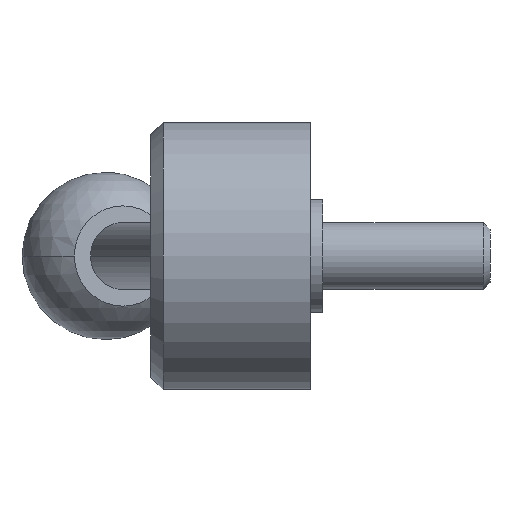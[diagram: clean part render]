
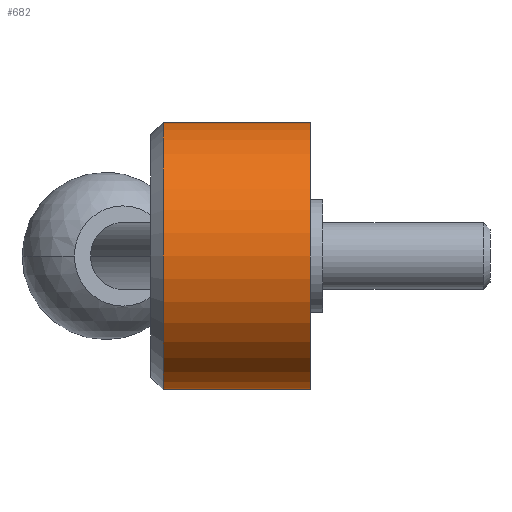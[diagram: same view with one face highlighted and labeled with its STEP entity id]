
A CAD part, left-side view. The second image highlights one B-rep face of the part: STEP entity #682.
In plain terms, the highlighted cylindrical face has radius 16 mm (diameter 32 mm), a partial arc.
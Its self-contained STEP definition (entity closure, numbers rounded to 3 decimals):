
#68 = VECTOR ( 'NONE', #378, 1000. ) ;
#84 = CARTESIAN_POINT ( 'NONE',  ( 0., 17.6, 0. ) ) ;
#109 = CIRCLE ( 'NONE', #609, 16. ) ;
#222 = CARTESIAN_POINT ( 'NONE',  ( 0., 17.6, 16. ) ) ;
#243 = VERTEX_POINT ( 'NONE', #641 ) ;
#245 = AXIS2_PLACEMENT_3D ( 'NONE', #888, #282, #495 ) ;
#249 = EDGE_CURVE ( 'NONE', #768, #789, #109, .T. ) ;
#261 = AXIS2_PLACEMENT_3D ( 'NONE', #290, #781, #494 ) ;
#282 = DIRECTION ( 'NONE',  ( 0., -1., 0. ) ) ;
#290 = CARTESIAN_POINT ( 'NONE',  ( 0., 0., 0. ) ) ;
#292 = ORIENTED_EDGE ( 'NONE', *, *, #249, .T. ) ;
#297 = DIRECTION ( 'NONE',  ( 0., 0., 1. ) ) ;
#342 = EDGE_CURVE ( 'NONE', #789, #434, #701, .T. ) ;
#348 = ORIENTED_EDGE ( 'NONE', *, *, #372, .F. ) ;
#351 = CARTESIAN_POINT ( 'NONE',  ( 0., 17.6, -16. ) ) ;
#365 = CARTESIAN_POINT ( 'NONE',  ( 0., 0., -16. ) ) ;
#367 = ORIENTED_EDGE ( 'NONE', *, *, #801, .F. ) ;
#372 = EDGE_CURVE ( 'NONE', #768, #243, #632, .T. ) ;
#378 = DIRECTION ( 'NONE',  ( 0., -1., 0. ) ) ;
#434 = VERTEX_POINT ( 'NONE', #467 ) ;
#467 = CARTESIAN_POINT ( 'NONE',  ( 0., 0., -16. ) ) ;
#494 = DIRECTION ( 'NONE',  ( 0., 0., -1. ) ) ;
#495 = DIRECTION ( 'NONE',  ( 0., 0., -1. ) ) ;
#504 = CYLINDRICAL_SURFACE ( 'NONE', #261, 16. ) ;
#507 = VECTOR ( 'NONE', #834, 1000. ) ;
#564 = CARTESIAN_POINT ( 'NONE',  ( 0., 0., 16. ) ) ;
#609 = AXIS2_PLACEMENT_3D ( 'NONE', #84, #850, #297 ) ;
#632 = LINE ( 'NONE', #564, #507 ) ;
#639 = EDGE_LOOP ( 'NONE', ( #348, #292, #839, #367 ) ) ;
#641 = CARTESIAN_POINT ( 'NONE',  ( 0., 0., 16. ) ) ;
#682 = ADVANCED_FACE ( 'NONE', ( #851 ), #504, .T. ) ;
#701 = LINE ( 'NONE', #365, #68 ) ;
#768 = VERTEX_POINT ( 'NONE', #222 ) ;
#781 = DIRECTION ( 'NONE',  ( 0., -1., 0. ) ) ;
#789 = VERTEX_POINT ( 'NONE', #351 ) ;
#801 = EDGE_CURVE ( 'NONE', #243, #434, #814, .T. ) ;
#814 = CIRCLE ( 'NONE', #245, 16. ) ;
#834 = DIRECTION ( 'NONE',  ( 0., -1., 0. ) ) ;
#839 = ORIENTED_EDGE ( 'NONE', *, *, #342, .T. ) ;
#850 = DIRECTION ( 'NONE',  ( 0., -1., 0. ) ) ;
#851 = FACE_OUTER_BOUND ( 'NONE', #639, .T. ) ;
#888 = CARTESIAN_POINT ( 'NONE',  ( 0., 0., 0. ) ) ;
